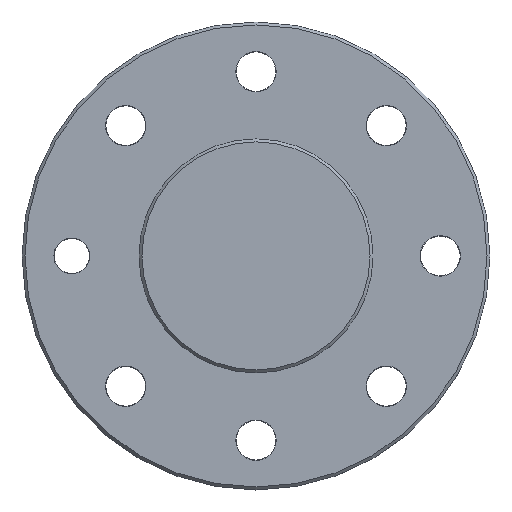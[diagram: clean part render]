
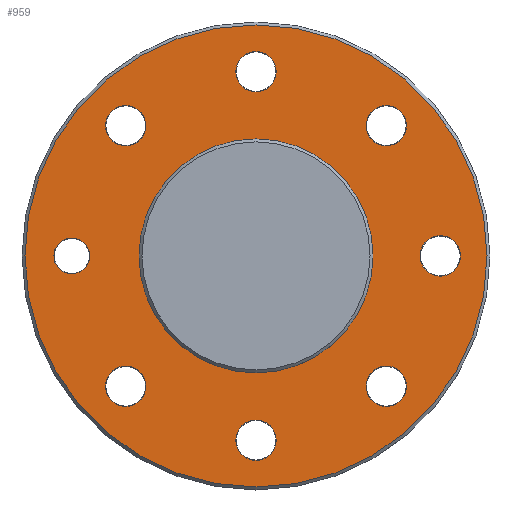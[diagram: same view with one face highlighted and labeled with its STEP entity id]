
A CAD part, top view. The second image highlights one B-rep face of the part: STEP entity #959.
In plain terms, the highlighted planar face has unit normal (0, 0, 1).
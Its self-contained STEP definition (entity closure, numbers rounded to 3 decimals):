
#14 = EDGE_CURVE ( 'NONE', #1176, #1176, #764, .T. ) ;
#37 = EDGE_CURVE ( 'NONE', #1319, #1319, #1027, .T. ) ;
#59 = EDGE_CURVE ( 'NONE', #1545, #1545, #222, .T. ) ;
#76 = AXIS2_PLACEMENT_3D ( 'NONE', #292, #1511, #886 ) ;
#83 = CARTESIAN_POINT ( 'NONE',  ( 15.75, 0., 4. ) ) ;
#120 = CIRCLE ( 'NONE', #1527, 10. ) ;
#176 = EDGE_LOOP ( 'NONE', ( #1416 ) ) ;
#205 = ORIENTED_EDGE ( 'NONE', *, *, #37, .T. ) ;
#222 = CIRCLE ( 'NONE', #1131, 19.75 ) ;
#243 = CARTESIAN_POINT ( 'NONE',  ( -1.725, 15.75, 4. ) ) ;
#263 = VERTEX_POINT ( 'NONE', #1455 ) ;
#280 = EDGE_LOOP ( 'NONE', ( #505 ) ) ;
#292 = CARTESIAN_POINT ( 'NONE',  ( 11.137, -11.137, 4. ) ) ;
#294 = DIRECTION ( 'NONE',  ( -1., 0., 0. ) ) ;
#295 = EDGE_CURVE ( 'NONE', #1553, #1553, #120, .T. ) ;
#303 = EDGE_CURVE ( 'NONE', #1040, #1040, #413, .T. ) ;
#330 = DIRECTION ( 'NONE',  ( 0., 0., 1. ) ) ;
#353 = FACE_BOUND ( 'NONE', #586, .T. ) ;
#356 = DIRECTION ( 'NONE',  ( 1., 0., 0. ) ) ;
#363 = AXIS2_PLACEMENT_3D ( 'NONE', #609, #1096, #751 ) ;
#400 = ORIENTED_EDGE ( 'NONE', *, *, #295, .F. ) ;
#412 = DIRECTION ( 'NONE',  ( -1., 0., 0. ) ) ;
#413 = CIRCLE ( 'NONE', #363, 1.725 ) ;
#414 = EDGE_CURVE ( 'NONE', #939, #939, #1434, .T. ) ;
#431 = DIRECTION ( 'NONE',  ( 0., 0., -1. ) ) ;
#445 = FACE_BOUND ( 'NONE', #512, .T. ) ;
#460 = FACE_BOUND ( 'NONE', #647, .T. ) ;
#467 = CARTESIAN_POINT ( 'NONE',  ( -12.862, 11.137, 4. ) ) ;
#488 = EDGE_LOOP ( 'NONE', ( #1289 ) ) ;
#491 = VERTEX_POINT ( 'NONE', #243 ) ;
#498 = CARTESIAN_POINT ( 'NONE',  ( 9.412, -11.137, 4. ) ) ;
#503 = CARTESIAN_POINT ( 'NONE',  ( 0., 0., 4. ) ) ;
#505 = ORIENTED_EDGE ( 'NONE', *, *, #303, .T. ) ;
#512 = EDGE_LOOP ( 'NONE', ( #1499 ) ) ;
#567 = ORIENTED_EDGE ( 'NONE', *, *, #59, .T. ) ;
#574 = AXIS2_PLACEMENT_3D ( 'NONE', #503, #1231, #839 ) ;
#584 = CARTESIAN_POINT ( 'NONE',  ( 19.75, 0., 4. ) ) ;
#586 = EDGE_LOOP ( 'NONE', ( #1383 ) ) ;
#609 = CARTESIAN_POINT ( 'NONE',  ( -11.137, -11.137, 4. ) ) ;
#610 = VERTEX_POINT ( 'NONE', #836 ) ;
#640 = CIRCLE ( 'NONE', #76, 1.725 ) ;
#642 = EDGE_CURVE ( 'NONE', #491, #491, #1299, .T. ) ;
#644 = EDGE_LOOP ( 'NONE', ( #567 ) ) ;
#647 = EDGE_LOOP ( 'NONE', ( #1109 ) ) ;
#681 = FACE_BOUND ( 'NONE', #825, .T. ) ;
#700 = EDGE_CURVE ( 'NONE', #610, #610, #1099, .T. ) ;
#714 = AXIS2_PLACEMENT_3D ( 'NONE', #83, #1409, #1191 ) ;
#722 = DIRECTION ( 'NONE',  ( 0., 0., -1. ) ) ;
#733 = DIRECTION ( 'NONE',  ( -1., 0., 0. ) ) ;
#751 = DIRECTION ( 'NONE',  ( -1., 0., 0. ) ) ;
#764 = CIRCLE ( 'NONE', #1333, 1.725 ) ;
#787 = AXIS2_PLACEMENT_3D ( 'NONE', #1018, #1392, #294 ) ;
#800 = FACE_BOUND ( 'NONE', #1425, .T. ) ;
#807 = FACE_OUTER_BOUND ( 'NONE', #644, .T. ) ;
#817 = EDGE_CURVE ( 'NONE', #263, #263, #1385, .T. ) ;
#825 = EDGE_LOOP ( 'NONE', ( #1188 ) ) ;
#831 = FACE_BOUND ( 'NONE', #280, .T. ) ;
#836 = CARTESIAN_POINT ( 'NONE',  ( -17.275, 0., 4. ) ) ;
#839 = DIRECTION ( 'NONE',  ( 1., 0., 0. ) ) ;
#855 = DIRECTION ( 'NONE',  ( 1., 0., 0. ) ) ;
#862 = CARTESIAN_POINT ( 'NONE',  ( -15.75, 0., 4. ) ) ;
#886 = DIRECTION ( 'NONE',  ( -1., 0., 0. ) ) ;
#937 = CARTESIAN_POINT ( 'NONE',  ( 0., 0., 4. ) ) ;
#939 = VERTEX_POINT ( 'NONE', #467 ) ;
#945 = CARTESIAN_POINT ( 'NONE',  ( 14.025, 0., 4. ) ) ;
#959 = ADVANCED_FACE ( 'NONE', ( #353, #831, #1322, #445, #800, #1290, #681, #460, #807, #1180 ), #1065, .T. ) ;
#996 = DIRECTION ( 'NONE',  ( -1., 0., 0. ) ) ;
#1018 = CARTESIAN_POINT ( 'NONE',  ( 11.137, 11.137, 4. ) ) ;
#1027 = CIRCLE ( 'NONE', #714, 1.725 ) ;
#1031 = CARTESIAN_POINT ( 'NONE',  ( -11.137, 11.137, 4. ) ) ;
#1040 = VERTEX_POINT ( 'NONE', #1523 ) ;
#1051 = CARTESIAN_POINT ( 'NONE',  ( -1.725, -15.75, 4. ) ) ;
#1063 = CARTESIAN_POINT ( 'NONE',  ( 10., 0., 4. ) ) ;
#1065 = PLANE ( 'NONE',  #574 ) ;
#1076 = AXIS2_PLACEMENT_3D ( 'NONE', #1342, #722, #996 ) ;
#1096 = DIRECTION ( 'NONE',  ( 0., 0., -1. ) ) ;
#1099 = CIRCLE ( 'NONE', #1552, 1.525 ) ;
#1106 = EDGE_CURVE ( 'NONE', #1115, #1115, #640, .T. ) ;
#1109 = ORIENTED_EDGE ( 'NONE', *, *, #700, .T. ) ;
#1115 = VERTEX_POINT ( 'NONE', #498 ) ;
#1131 = AXIS2_PLACEMENT_3D ( 'NONE', #937, #330, #356 ) ;
#1176 = VERTEX_POINT ( 'NONE', #1051 ) ;
#1180 = FACE_BOUND ( 'NONE', #1441, .T. ) ;
#1188 = ORIENTED_EDGE ( 'NONE', *, *, #642, .T. ) ;
#1191 = DIRECTION ( 'NONE',  ( -1., 0., 0. ) ) ;
#1199 = AXIS2_PLACEMENT_3D ( 'NONE', #1031, #431, #1284 ) ;
#1231 = DIRECTION ( 'NONE',  ( 0., 0., 1. ) ) ;
#1234 = DIRECTION ( 'NONE',  ( 0., 0., 1. ) ) ;
#1284 = DIRECTION ( 'NONE',  ( -1., 0., 0. ) ) ;
#1289 = ORIENTED_EDGE ( 'NONE', *, *, #14, .T. ) ;
#1290 = FACE_BOUND ( 'NONE', #176, .T. ) ;
#1299 = CIRCLE ( 'NONE', #1076, 1.725 ) ;
#1319 = VERTEX_POINT ( 'NONE', #945 ) ;
#1322 = FACE_BOUND ( 'NONE', #488, .T. ) ;
#1333 = AXIS2_PLACEMENT_3D ( 'NONE', #1501, #1420, #412 ) ;
#1342 = CARTESIAN_POINT ( 'NONE',  ( 0., 15.75, 4. ) ) ;
#1348 = DIRECTION ( 'NONE',  ( 0., 0., -1. ) ) ;
#1383 = ORIENTED_EDGE ( 'NONE', *, *, #414, .T. ) ;
#1385 = CIRCLE ( 'NONE', #787, 1.725 ) ;
#1392 = DIRECTION ( 'NONE',  ( 0., 0., -1. ) ) ;
#1409 = DIRECTION ( 'NONE',  ( 0., 0., -1. ) ) ;
#1416 = ORIENTED_EDGE ( 'NONE', *, *, #817, .T. ) ;
#1420 = DIRECTION ( 'NONE',  ( 0., 0., -1. ) ) ;
#1425 = EDGE_LOOP ( 'NONE', ( #205 ) ) ;
#1434 = CIRCLE ( 'NONE', #1199, 1.725 ) ;
#1441 = EDGE_LOOP ( 'NONE', ( #400 ) ) ;
#1455 = CARTESIAN_POINT ( 'NONE',  ( 9.412, 11.137, 4. ) ) ;
#1499 = ORIENTED_EDGE ( 'NONE', *, *, #1106, .T. ) ;
#1501 = CARTESIAN_POINT ( 'NONE',  ( 0., -15.75, 4. ) ) ;
#1511 = DIRECTION ( 'NONE',  ( 0., 0., -1. ) ) ;
#1516 = CARTESIAN_POINT ( 'NONE',  ( 0., 0., 4. ) ) ;
#1523 = CARTESIAN_POINT ( 'NONE',  ( -12.862, -11.137, 4. ) ) ;
#1527 = AXIS2_PLACEMENT_3D ( 'NONE', #1516, #1234, #855 ) ;
#1545 = VERTEX_POINT ( 'NONE', #584 ) ;
#1552 = AXIS2_PLACEMENT_3D ( 'NONE', #862, #1348, #733 ) ;
#1553 = VERTEX_POINT ( 'NONE', #1063 ) ;
